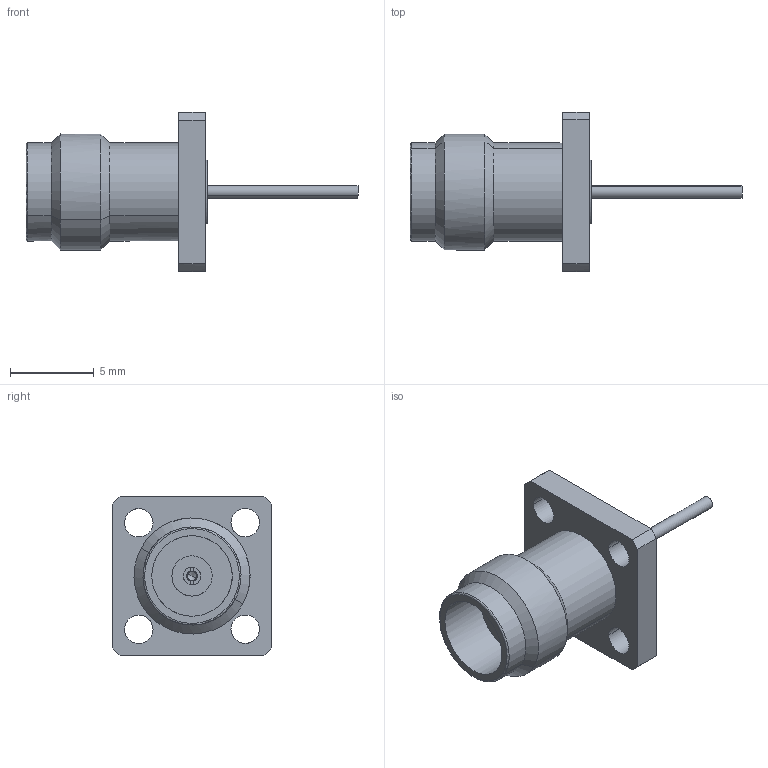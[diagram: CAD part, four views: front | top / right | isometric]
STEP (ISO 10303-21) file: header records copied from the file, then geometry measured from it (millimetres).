
FILE_DESCRIPTION(('CATIA V5 STEP Exchange'),'2;1');
FILE_NAME('F:\Work SZ\CMP 图纸\Precision Coaxial Connector\2.4mm\97-02-9F2-024\97-02-9F2-024A(REV.A).stp','2013-08-09T03:23:51+00:00',('none'),('none'),'CATIA Version 5 Release 17 (IN-10)','CATIA V5 STEP AP203','none');
FILE_SCHEMA(('CONFIG_CONTROL_DESIGN'));
Length unit declared in the file: millimetre
Products named in the file (1): 97-02-9F2-024A
Bounding box: 19.8 x 9.5 x 9.5 mm (x, y, z)
Volume: 340.6 mm3; surface area: 560.1 mm2
Topology: 1 solids, 1 shells, 67 faces, 161 edges, 101 vertices
Faces by surface type: cylinder 32, plane 20, cone 13, torus 2
Entity records: 2382 total; most frequent: CARTESIAN_POINT 921, ORIENTED_EDGE 318, DIRECTION 222, EDGE_CURVE 159, VERTEX_POINT 101, AXIS2_PLACEMENT_3D 97, EDGE_LOOP 82, VECTOR 71
